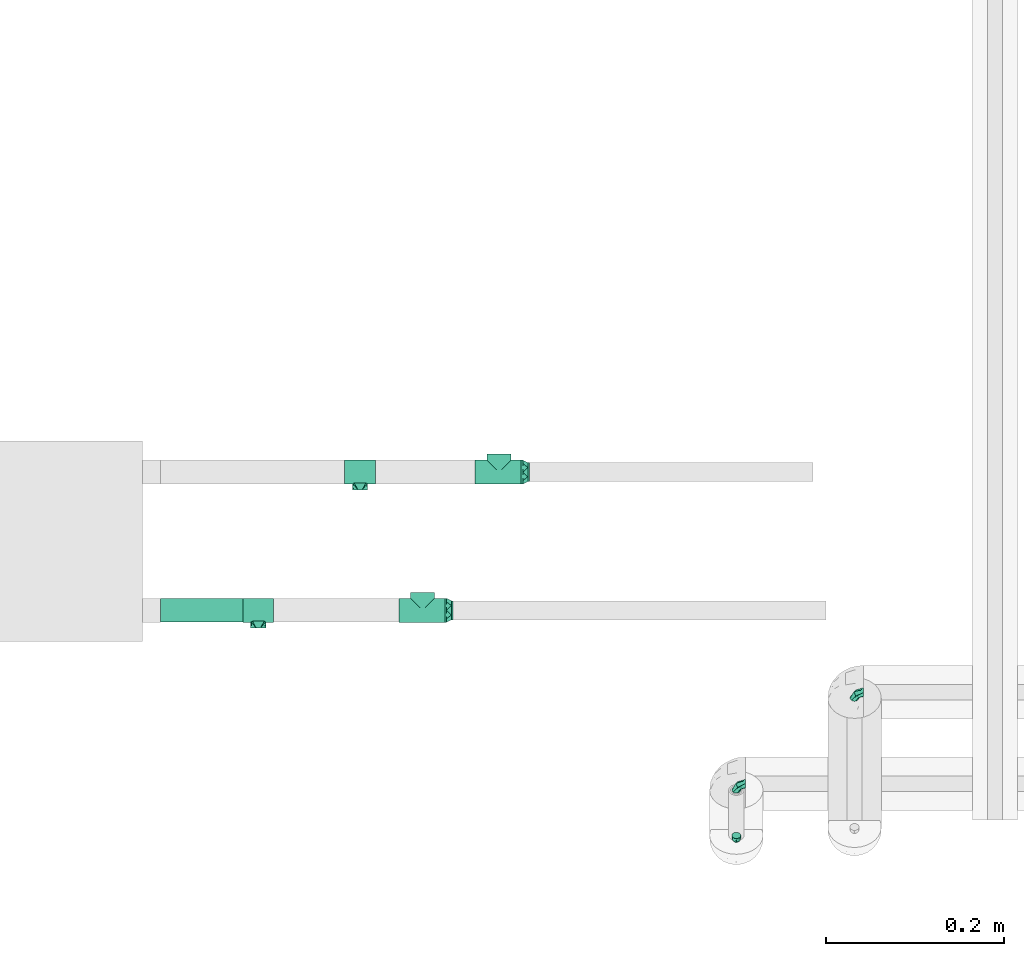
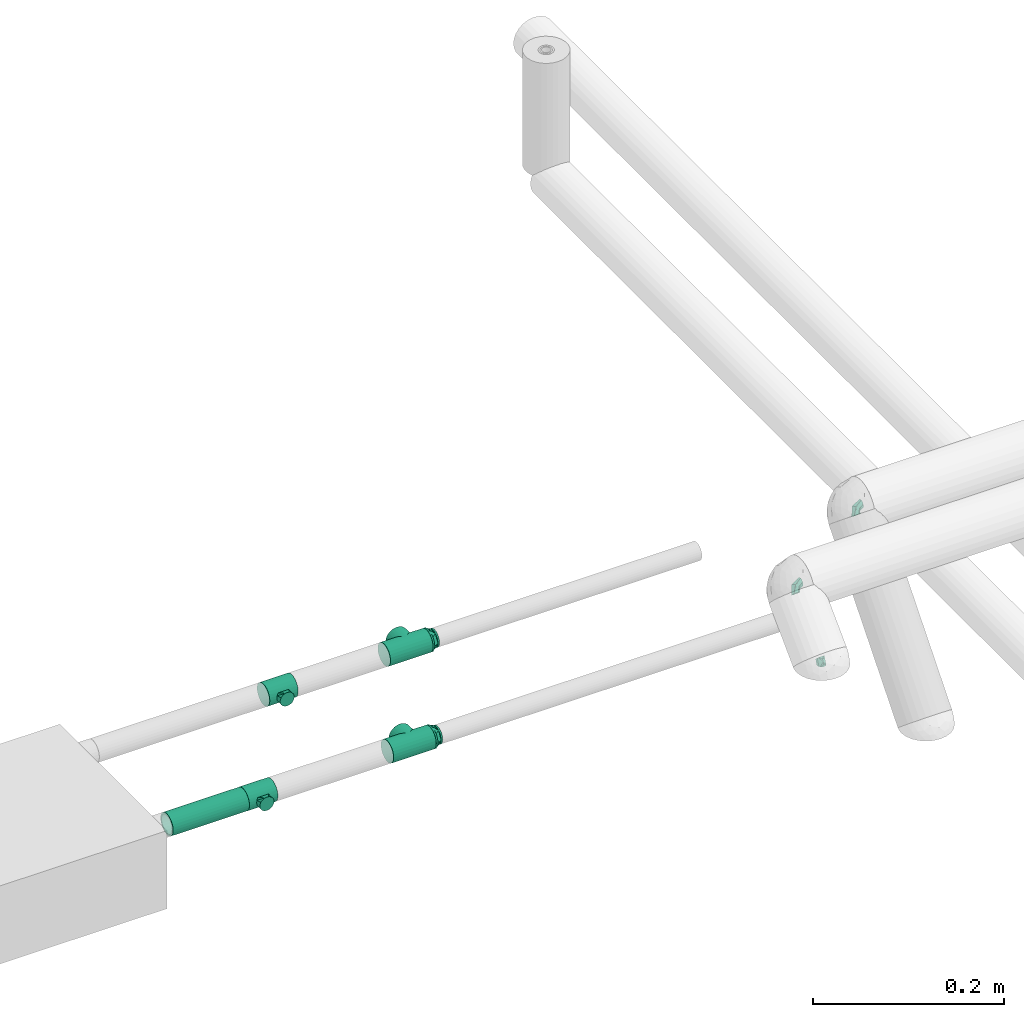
# One storey, part 79 of 156: 9 flow fittings, 1 flow segment.
"""IFC2X3 building model written with IfcOpenShell, lengths in millimetres."""

import ifcopenshell
import ifcopenshell.guid

model = None  # the IFC model being written
_history = None  # IfcOwnerHistory: only IFC2X3 demands one
_inside = {}  # id of a spatial element -> (the spatial element, [elements in it])
_under = {}  # id of a project, library or spatial element -> (it, [spatial elements below it])
_declared = {}  # id of a project -> (the project, [libraries it declares])
_typed = {}  # id of a type object -> (the type object, [elements of that type])
_made_of = {}  # id of a material, layer set ... -> (it, [elements and type objects made of it])


def new_model(schema):
    """Start an empty IFC model of exactly this schema.

    Asked for "IFC4X3", IfcOpenShell would pick the latest addendum, in which some entities
    have other attributes; the version numbers below select the first issue.
    IFC2X3 requires an IfcOwnerHistory on every rooted entity: one is made here for all.
    """
    global model, _history
    if schema == "IFC4X3":
        model = ifcopenshell.file(schema_version=(4, 3, 0, 0))
    else:
        model = ifcopenshell.file(schema=schema)
    _inside.clear()
    _under.clear()
    _declared.clear()
    _typed.clear()
    _made_of.clear()
    _history = None
    if model.schema == "IFC2X3":
        org = make("IfcOrganization", Name="unknown")
        user = make(
            "IfcPersonAndOrganization",
            ThePerson=make("IfcPerson", FamilyName="unknown"),
            TheOrganization=org,
        )
        app = make(
            "IfcApplication",
            ApplicationDeveloper=org,
            Version="unknown",
            ApplicationFullName="unknown",
            ApplicationIdentifier="unknown",
        )
        _history = make(
            "IfcOwnerHistory",
            OwningUser=user,
            OwningApplication=app,
            ChangeAction="ADDED",
            CreationDate=0,
        )
    return model


def make(cls, **values):
    """One entity of the class cls with the attributes given. An attribute that is None is left unset."""
    return model.create_entity(
        cls, **{name: value for name, value in values.items() if value is not None}
    )


def entity(cls, *values):
    """Any entity or typed value of the class cls, its attributes in the order of the schema. None: left unset."""
    e = model.create_entity(cls)
    for i, value in enumerate(values):
        if value is not None:
            e[i] = value
    return e


def rooted(cls, **values):
    """An entity with a GlobalId (a new one), such as an element, a storey or a relation."""
    return make(cls, GlobalId=ifcopenshell.guid.new(), OwnerHistory=_history, **values)


def si_unit(unit_type, name, prefix=None):
    """IfcSIUnit, for example si_unit("LENGTHUNIT", "METRE", prefix="MILLI")."""
    return make("IfcSIUnit", UnitType=unit_type, Prefix=prefix, Name=name)


def converted_unit(unit_type, name, factor, base, dimensions=None, offset=None):
    """IfcConversionBasedUnit, such as the inch: factor (a typed value) times the base unit."""
    return make(
        "IfcConversionBasedUnit"
        if offset is None
        else "IfcConversionBasedUnitWithOffset",
        ConversionOffset=offset,
        Dimensions=None
        if dimensions is None
        else entity("IfcDimensionalExponents", *dimensions),
        UnitType=unit_type,
        Name=name,
        ConversionFactor=make(
            "IfcMeasureWithUnit", ValueComponent=factor, UnitComponent=base
        ),
    )


def derived_unit(unit_type, elements):
    """IfcDerivedUnit: a product of units, each with its exponent."""
    return make(
        "IfcDerivedUnit",
        Elements=[
            make("IfcDerivedUnitElement", Unit=unit, Exponent=power)
            for unit, power in elements
        ],
        UnitType=unit_type,
    )


def assignment(units):
    """IfcUnitAssignment: the units of a project."""
    return None if units is None else make("IfcUnitAssignment", Units=units)


def point(xyz):
    """IfcCartesianPoint."""
    return None if xyz is None else make("IfcCartesianPoint", Coordinates=xyz)


def direction(xyz):
    """IfcDirection."""
    return None if xyz is None else make("IfcDirection", DirectionRatios=xyz)


def frame(location, z_axis=None, x_axis=None):
    """IfcAxis2Placement3D, a coordinate frame: its origin and axes. An axis left out is left unset."""
    return make(
        "IfcAxis2Placement3D",
        Location=point(location),
        Axis=direction(z_axis),
        RefDirection=direction(x_axis),
    )


def frame_2d(location, x_axis=None):
    """IfcAxis2Placement2D, a coordinate frame in the plane: its origin and x axis."""
    return make(
        "IfcAxis2Placement2D", Location=point(location), RefDirection=direction(x_axis)
    )


def origin_with_axes():
    """The frame at (0, 0, 0) with the z axis (0, 0, 1) and the x axis (1, 0, 0) written out."""
    return frame((0.0, 0.0, 0.0), z_axis=(0.0, 0.0, 1.0), x_axis=(1.0, 0.0, 0.0))


def origin_2d_with_axis():
    """The frame at (0, 0) in the plane with the x axis (1, 0) written out."""
    return frame_2d((0.0, 0.0), x_axis=(1.0, 0.0))


def place(relative_to, where):
    """IfcLocalPlacement: puts the frame where relative to a parent placement (None: the world)."""
    return make(
        "IfcLocalPlacement", PlacementRelTo=relative_to, RelativePlacement=where
    )


def context(
    kind, dimensions, precision=None, world=None, true_north=None, identifier=None
):
    """IfcGeometricRepresentationContext, for example the 3D "Model" context."""
    return make(
        "IfcGeometricRepresentationContext",
        ContextIdentifier=identifier,
        ContextType=kind,
        CoordinateSpaceDimension=dimensions,
        Precision=precision,
        WorldCoordinateSystem=world,
        TrueNorth=true_north,
    )


def subcontext(parent, identifier, kind, view, scale=None):
    """IfcGeometricRepresentationSubContext, for example "Body" below "Model"."""
    return make(
        "IfcGeometricRepresentationSubContext",
        ContextIdentifier=identifier,
        ContextType=kind,
        ParentContext=parent,
        TargetScale=scale,
        TargetView=view,
    )


def project(units=None, contexts=None):
    """IfcProject with its units and contexts."""
    return rooted(
        "IfcProject",
        Name="project",
        RepresentationContexts=contexts,
        UnitsInContext=assignment(units),
    )


def spatial(cls, under=None, at=None, **own):
    """A site, building, storey or space (cls), placed at a placement, below another one or the project."""
    s = rooted(cls, ObjectPlacement=at, **own)
    if under is not None:
        _under.setdefault(under.id(), (under, []))[1].append(s)
    return s


def profile(cls, at=None, kind="AREA", **sizes):
    """A parametric profile (cls). Its sizes go by their IFC names, for example OverallWidth=200.0."""
    return make(cls, ProfileType=kind, Position=at, **sizes)


def hollow_circle(**sizes):
    """IfcCircleHollowProfileDef."""
    return profile("IfcCircleHollowProfileDef", **sizes)


def extrude(swept, where, along, depth):
    """IfcExtrudedAreaSolid: the profile swept, set in the frame where, extruded along a direction by depth."""
    return make(
        "IfcExtrudedAreaSolid",
        SweptArea=swept,
        Position=where,
        ExtrudedDirection=direction(along),
        Depth=depth,
    )


def faces_of(points, faces, orient=None, outer=None):
    """IfcFace entities. A face is a list of loops; a loop is a list of indices into points, from 0.

    orient and outer hold one flag for each loop. By default every Orientation is true, the
    first loop of a face is its IfcFaceOuterBound and the others are IfcFaceBound.
    """
    made = []
    for i, loops in enumerate(faces):
        bounds = []
        for j, loop in enumerate(loops):
            is_outer = j == 0 if outer is None else outer[i][j]
            bounds.append(
                make(
                    "IfcFaceOuterBound" if is_outer else "IfcFaceBound",
                    Bound=make("IfcPolyLoop", Polygon=[points[k] for k in loop]),
                    Orientation=True if orient is None else orient[i][j],
                )
            )
        made.append(make("IfcFace", Bounds=bounds))
    return made


def open_shell(faces, orient=None, outer=None):
    """The faces of one IfcOpenShell. surface_model builds it on its shared points."""
    return ("IfcOpenShell", faces, orient, outer)


def surface_model(cls, points, shells):
    """IfcFaceBasedSurfaceModel or IfcShellBasedSurfaceModel (cls): surfaces that need not close."""
    shared = [point(p) for p in points]
    made = [make(c, CfsFaces=faces_of(shared, fs, o, b)) for c, fs, o, b in shells]
    if cls == "IfcFaceBasedSurfaceModel":
        return make(cls, FbsmFaces=made)
    return make(cls, SbsmBoundary=made)


def shape(context_of_items, identifier, shape_type, items):
    """IfcShapeRepresentation: the items that make up one representation, for example the "Body"."""
    return make(
        "IfcShapeRepresentation",
        ContextOfItems=context_of_items,
        RepresentationIdentifier=identifier,
        RepresentationType=shape_type,
        Items=items,
    )


def source(mapping_origin, context_of_items, identifier, shape_type, items):
    """IfcRepresentationMap: a shape defined once, which mapped items show again and again."""
    return make(
        "IfcRepresentationMap",
        MappingOrigin=mapping_origin,
        MappedRepresentation=shape(context_of_items, identifier, shape_type, items),
    )


def transform(
    local_origin,
    x_axis=None,
    y_axis=None,
    z_axis=None,
    scale=None,
    scale2=None,
    scale3=None,
    uniform=True,
):
    """IfcCartesianTransformationOperator3D, or its non-uniform kind. x_axis, y_axis, z_axis: its Axis1, 2, 3."""
    if uniform:
        return make(
            "IfcCartesianTransformationOperator3D",
            Axis1=direction(x_axis),
            Axis2=direction(y_axis),
            LocalOrigin=point(local_origin),
            Scale=scale,
            Axis3=direction(z_axis),
        )
    return make(
        "IfcCartesianTransformationOperator3DnonUniform",
        Axis1=direction(x_axis),
        Axis2=direction(y_axis),
        LocalOrigin=point(local_origin),
        Scale=scale,
        Axis3=direction(z_axis),
        Scale2=scale2,
        Scale3=scale3,
    )


def mapped(mapping_source, mapping_target):
    """IfcMappedItem: shows the shape of a source again, moved by a transform."""
    return make(
        "IfcMappedItem", MappingSource=mapping_source, MappingTarget=mapping_target
    )


def made_of(thing, what):
    """Note that an element or type object is made of a material, layer set ...; save() writes the relation."""
    if what is not None:
        _made_of.setdefault(what.id(), (what, []))[1].append(thing)
    return thing


def type_object(cls, material=None, **own):
    """A type object (cls), such as IfcWallType, which elements share."""
    return made_of(rooted(cls, **own), material)


def element(
    cls,
    number,
    at=None,
    inside=None,
    cuts=None,
    type_object=None,
    material=None,
    context=None,
    identifier="Body",
    shape_type=None,
    held_by="IfcProductDefinitionShape",
    body=None,
    shapes=None,
    **own,
):
    """One element of the class cls, such as IfcWall. Its Tag is "e" and its number.

    at: its placement. inside: the storey or other place that contains it. cuts: it is an
    opening in that element (IfcRelVoidsElement). A single representation is given by context,
    identifier, shape_type and body (its items); several are given by shapes. held_by: the class
    of the entity that holds the representations. save() writes the other relations.
    """
    e = rooted(cls, Tag="e%d" % number, ObjectPlacement=at, **own)
    if body is not None:
        shapes = [shape(context, identifier, shape_type, body)]
    if shapes is not None:
        e.Representation = make(held_by, Representations=shapes)
    if inside is not None:
        _inside.setdefault(inside.id(), (inside, []))[1].append(e)
    if cuts is not None:
        rooted(
            "IfcRelVoidsElement", RelatingBuildingElement=cuts, RelatedOpeningElement=e
        )
    if type_object is not None:
        _typed.setdefault(type_object.id(), (type_object, []))[1].append(e)
    return made_of(e, material)


def aggregate(whole, parts):
    """IfcRelAggregates: a whole, such as a stair, and the parts it consists of."""
    return rooted("IfcRelAggregates", RelatingObject=whole, RelatedObjects=parts)


def save(model, path):
    """Write the relations noted so far, then the file.

    IfcRelAggregates (storeys below a building ...), IfcRelContainedInSpatialStructure (elements
    in a storey), IfcRelDefinesByType, IfcRelAssociatesMaterial and IfcRelDeclares: one each for
    every whole, place, type object, material and project.
    """
    for whole, parts in _under.values():
        aggregate(whole, parts)
    for where, things in _inside.values():
        rooted(
            "IfcRelContainedInSpatialStructure",
            RelatedElements=things,
            RelatingStructure=where,
        )
    for kind, things in _typed.values():
        rooted("IfcRelDefinesByType", RelatedObjects=things, RelatingType=kind)
    for what, things in _made_of.values():
        rooted("IfcRelAssociatesMaterial", RelatedObjects=things, RelatingMaterial=what)
    for by, libraries in _declared.values():
        rooted("IfcRelDeclares", RelatingContext=by, RelatedDefinitions=libraries)
    model.write(path)


model = new_model("IFC2X3")

# Units and contexts
model_context = context("Model", 3, precision=0.01, world=frame((0.0, 4.29681676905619e-09, 0.0)), true_north=direction((4.01073788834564e-13, 1.0)))
plan_context = context("Plan", 3, precision=0.01, world=frame((0.0, 4.29681676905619e-09, 0.0)), true_north=direction((4.01073788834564e-13, 1.0)))
body_context = subcontext(model_context, "Body", "Model", "MODEL_VIEW")
ifc_project = project(units=[converted_unit("PLANEANGLEUNIT", "DEGREE", entity("IfcPositiveLengthMeasure", 0.0174532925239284), si_unit("PLANEANGLEUNIT", "RADIAN"), dimensions=[0, 0, 0, 0, 0, 0, 0]), si_unit("AREAUNIT", "SQUARE_METRE"), si_unit("LENGTHUNIT", "METRE", prefix="MILLI"), si_unit("MASSUNIT", "GRAM", prefix="KILO"), si_unit("POWERUNIT", "WATT"), si_unit("PRESSUREUNIT", "PASCAL", prefix="KILO"), si_unit("FORCEUNIT", "NEWTON", prefix="KILO"), si_unit("ELECTRICVOLTAGEUNIT", "VOLT"), si_unit("ELECTRICCURRENTUNIT", "AMPERE"), si_unit("THERMODYNAMICTEMPERATUREUNIT", "DEGREE_CELSIUS"), si_unit("TIMEUNIT", "SECOND"), si_unit("VOLUMEUNIT", "CUBIC_METRE"), derived_unit("LINEARVELOCITYUNIT", [(si_unit("LENGTHUNIT", "METRE"), 1), (si_unit("TIMEUNIT", "SECOND"), -1)]), derived_unit("VOLUMETRICFLOWRATEUNIT", [(si_unit("VOLUMEUNIT", "CUBIC_METRE"), 1), (si_unit("TIMEUNIT", "SECOND"), -1)]), derived_unit("THERMALTRANSMITTANCEUNIT", [(si_unit("POWERUNIT", "WATT"), 1), (si_unit("THERMODYNAMICTEMPERATUREUNIT", "KELVIN"), -1), (si_unit("AREAUNIT", "SQUARE_METRE"), -1)]), derived_unit("SOUNDPRESSUREUNIT", [(si_unit("PRESSUREUNIT", "PASCAL"), 1)])], contexts=[model_context, plan_context])

# Site, building, storey
site_placement = place(None, frame((0.0, -4.29681676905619e-09, 0.0), z_axis=(0.0, 0.0, 1.0), x_axis=(1.0, 0.0, 0.0)))
site = spatial("IfcSite", under=ifc_project, at=site_placement, CompositionType="ELEMENT")
building_placement = place(site_placement, frame((0.0, 4.29681676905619e-09, 0.0), z_axis=(0.0, 0.0, 1.0), x_axis=(1.0, 0.0, 0.0)))
building = spatial("IfcBuilding", under=site, at=building_placement, Name="mc-building", CompositionType="ELEMENT")
storey_placement = place(building_placement, frame((0.0, 0.0, 205200.0), z_axis=(0.0, 0.0, 1.0), x_axis=(1.0, 0.0, 0.0)))
storey = spatial("IfcBuildingStorey", under=building, at=storey_placement, Name="Nivå D + 1,2 m", CompositionType="ELEMENT", Elevation=205200.0)

# Flow fittings
pipe_fitting_type_1 = type_object("IfcPipeFittingType", Name="magi_pipe_fe_tee_centric_90_001", PredefinedType="JUNCTION")
shared_shape_1 = source(origin_with_axes(), body_context, "Body", "SurfaceModel", [
    surface_model("IfcShellBasedSurfaceModel", [(-26.8, -13.4, 0.0), (-26.8, -12.94341, 3.46818), (-26.8, -12.94341, -3.46818), (-26.8, 6.7, -11.60474), (-26.8, 3.46818, -12.94341), (-26.8, 0.0, -13.4), (-26.8, 9.47523, -9.47523), (-26.8, 12.94341, -3.46818), (-26.8, 11.60474, -6.7), (-26.8, -11.60474, -6.7), (-26.8, -6.7, -11.60474), (-26.8, -9.47523, -9.47523), (-26.8, -3.46818, -12.94341), (-26.8, 11.60474, 6.7), (-26.8, 12.94341, 3.46818), (-26.8, 6.7, 11.60474), (-26.8, 9.47523, 9.47523), (-26.8, 3.46818, 12.94341), (-26.8, -9.47523, 9.47523), (-26.8, -6.7, 11.60474), (-26.8, -11.60474, 6.7), (-26.8, -3.46818, 12.94341), (-26.8, 0.0, 13.4), (-26.8, 13.4, 0.0), (26.8, 9.47523, -9.47523), (26.8, 0.0, -13.4), (26.8, 3.46818, -12.94341), (26.8, 6.7, -11.60474), (26.8, -12.94341, 3.46818), (26.8, 11.60474, -6.7), (26.8, -11.60474, -6.7), (26.8, -12.94341, -3.46818), (26.8, -3.46818, -12.94341), (26.8, -9.47523, -9.47523), (26.8, -6.7, -11.60474), (26.8, -13.4, 0.0), (26.8, 12.94341, -3.46818), (26.8, 13.4, 0.0), (26.8, 12.94341, 3.46818), (26.8, 11.60474, 6.7), (26.8, 6.7, 11.60474), (26.8, 9.47523, 9.47523), (26.8, 0.0, 13.4), (26.8, 3.46818, 12.94341), (26.8, -11.60474, 6.7), (26.8, -6.7, 11.60474), (26.8, -9.47523, 9.47523), (26.8, -3.46818, 12.94341), (12.91394, -12.91394, 3.57635), (13.4, -13.4, 0.0), (11.59778, -11.59778, 6.71205), (7.51045, -7.51045, 11.09744), (9.72367, -9.72367, 9.2201), (-13.4, -13.4, 0.0), (-12.91394, -12.91394, 3.57635), (-11.59778, -11.59778, 6.71205), (-9.72367, -9.72367, 9.2201), (-7.51045, -7.51045, 11.09744), (-5.09751, -5.09751, 12.39256), (5.09751, -5.09751, 12.39256), (2.57313, -2.57313, 13.15063), (0.0, 0.0, 13.4), (-2.57313, -2.57313, 13.15063), (2.57313, -2.57313, -13.15063), (0.0, 0.0, -13.4), (-2.57313, -2.57313, -13.15063), (-5.09751, -5.09751, -12.39256), (5.09751, -5.09751, -12.39256), (7.51045, -7.51045, -11.09744), (9.72367, -9.72367, -9.2201), (11.59778, -11.59778, -6.71205), (12.91394, -12.91394, -3.57635), (-7.51045, -7.51045, -11.09744), (-9.72367, -9.72367, -9.2201), (-12.91394, -12.91394, -3.57635), (-11.59778, -11.59778, -6.71205), (9.47523, -20.1, -9.47523), (0.0, -20.1, -13.4), (3.46818, -20.1, -12.94341), (6.7, -20.1, -11.60474), (11.60474, -20.1, -6.7), (12.94341, -20.1, -3.46818), (-12.94341, -20.1, 3.46818), (-12.94341, -20.1, -3.46818), (-3.46818, -20.1, -12.94341), (-9.47523, -20.1, -9.47523), (-6.7, -20.1, -11.60474), (-11.60474, -20.1, -6.7), (-13.4, -20.1, 0.0), (13.4, -20.1, 0.0), (12.94341, -20.1, 3.46818), (11.60474, -20.1, 6.7), (6.7, -20.1, 11.60474), (9.47523, -20.1, 9.47523), (3.46818, -20.1, 12.94341), (-9.47523, -20.1, 9.47523), (-11.60474, -20.1, 6.7), (-6.7, -20.1, 11.60474), (-3.46818, -20.1, 12.94341), (0.0, -20.1, 13.4)], [open_shell([[[0, 1, 2]], [[3, 4, 5]], [[6, 3, 5]], [[7, 8, 6]], [[9, 6, 5]], [[6, 2, 1]], [[10, 11, 12]], [[9, 12, 11]], [[12, 9, 5]], [[9, 2, 6]], [[7, 6, 1]], [[7, 13, 14]], [[7, 15, 13]], [[7, 1, 15]], [[16, 13, 15]], [[17, 15, 1]], [[18, 19, 20]], [[1, 20, 21]], [[19, 21, 20]], [[22, 1, 21]], [[22, 17, 1]], [[7, 14, 23]], [[24, 25, 26]], [[24, 26, 27]], [[28, 24, 29]], [[25, 24, 30]], [[28, 31, 24]], [[32, 33, 34]], [[33, 32, 30]], [[25, 30, 32]], [[24, 31, 30]], [[31, 28, 35]], [[36, 28, 29]], [[37, 38, 39]], [[37, 39, 40]], [[37, 40, 28]], [[40, 39, 41]], [[42, 40, 43]], [[44, 45, 46]], [[47, 44, 28]], [[44, 47, 45]], [[47, 28, 42]], [[28, 40, 42]], [[37, 28, 36]], [[28, 44, 48]], [[35, 28, 49]], [[49, 28, 48]], [[44, 50, 48]], [[46, 45, 51]], [[50, 44, 52]], [[51, 52, 46]], [[52, 44, 46]], [[53, 54, 1]], [[53, 1, 0]], [[1, 54, 20]], [[54, 55, 20]], [[56, 57, 18]], [[18, 20, 56]], [[18, 57, 19]], [[56, 20, 55]], [[19, 57, 58]], [[51, 45, 59]], [[60, 42, 61]], [[59, 47, 60]], [[47, 59, 45]], [[60, 47, 42]], [[61, 42, 43]], [[39, 38, 14]], [[16, 40, 41]], [[13, 41, 39]], [[43, 40, 15]], [[23, 38, 37]], [[62, 61, 22]], [[62, 21, 58]], [[21, 62, 22]], [[58, 21, 19]], [[61, 17, 22]], [[43, 17, 61]], [[15, 17, 43]], [[15, 40, 16]], [[13, 16, 41]], [[14, 13, 39]], [[38, 23, 14]], [[8, 29, 24]], [[23, 37, 36]], [[24, 27, 3]], [[29, 7, 36]], [[25, 32, 63]], [[25, 64, 26]], [[64, 25, 63]], [[27, 26, 4]], [[64, 4, 26]], [[8, 24, 6]], [[7, 29, 8]], [[24, 3, 6]], [[7, 23, 36]], [[65, 66, 12]], [[5, 4, 64]], [[5, 65, 12]], [[66, 10, 12]], [[4, 3, 27]], [[5, 64, 65]], [[63, 32, 67]], [[34, 33, 68]], [[69, 68, 33]], [[30, 70, 69]], [[69, 33, 30]], [[34, 68, 67]], [[31, 35, 49]], [[31, 71, 30]], [[71, 31, 49]], [[30, 71, 70]], [[72, 10, 66]], [[72, 11, 10]], [[11, 72, 73]], [[11, 73, 9]], [[74, 53, 2]], [[75, 74, 9]], [[74, 2, 9]], [[2, 53, 0]], [[75, 9, 73]], [[34, 67, 32]], [[76, 77, 78]], [[76, 78, 79]], [[76, 80, 81]], [[77, 76, 82]], [[82, 83, 77]], [[84, 85, 86]], [[84, 77, 85]], [[87, 85, 77]], [[77, 83, 87]], [[83, 82, 88]], [[82, 76, 81]], [[89, 90, 91]], [[91, 92, 81]], [[92, 82, 81]], [[92, 91, 93]], [[82, 92, 94]], [[82, 95, 96]], [[95, 82, 97]], [[82, 98, 97]], [[98, 82, 99]], [[82, 94, 99]], [[81, 89, 91]], [[82, 53, 88]], [[96, 54, 82]], [[57, 95, 97]], [[97, 98, 58]], [[96, 95, 56]], [[99, 62, 98]], [[54, 53, 82]], [[55, 54, 96]], [[57, 56, 95]], [[62, 58, 98]], [[57, 97, 58]], [[55, 96, 56]], [[99, 61, 62]], [[51, 92, 93]], [[59, 94, 92]], [[90, 89, 49]], [[93, 91, 52]], [[90, 48, 91]], [[48, 90, 49]], [[61, 99, 60]], [[59, 60, 94]], [[48, 50, 91]], [[52, 51, 93]], [[50, 52, 91]], [[59, 92, 51]], [[60, 99, 94]], [[81, 49, 89]], [[80, 71, 81]], [[68, 76, 79]], [[79, 78, 67]], [[80, 76, 69]], [[77, 63, 78]], [[71, 49, 81]], [[70, 71, 80]], [[68, 69, 76]], [[63, 67, 78]], [[68, 79, 67]], [[70, 80, 69]], [[77, 64, 63]], [[86, 66, 84]], [[85, 72, 86]], [[83, 88, 53]], [[85, 87, 73]], [[83, 74, 87]], [[74, 83, 53]], [[64, 77, 65]], [[66, 65, 84]], [[74, 75, 87]], [[73, 72, 85]], [[75, 73, 87]], [[66, 86, 72]], [[65, 77, 84]]])]),
])
for number, where, z_axis, x_axis, name in (
    (1, (322893.25854, 459123.07852, 4038.0), (0.0, 0.0, 1.0), (-1.0, 0.0, 0.0), "magi_pipe_fe_tee_centric_90_001"),
    (2, (322978.90559, 459278.07852, 4038.0), (0.0, 0.0, 1.0), (-1.0, 0.0, 0.0), "magi_pipe_fe_tee_centric_90_001"),
):
    element("IfcFlowFitting", number, at=place(storey_placement, frame(where, z_axis=z_axis, x_axis=x_axis)), inside=storey, type_object=pipe_fitting_type_1, Name=name, context=body_context, shape_type="MappedRepresentation", body=[
        mapped(shared_shape_1, transform((0.0, 0.0, 0.0), scale=1.0)),
    ])
shared_shape_2 = source(origin_with_axes(), body_context, "Body", "SurfaceModel", [
    surface_model("IfcShellBasedSurfaceModel", [(-17.2, 0.0, -13.4), (-17.2, -9.47523, -9.47523), (-17.2, 3.46818, -12.94341), (-17.2, 6.7, -11.60474), (-17.2, 9.47523, -9.47523), (-17.2, 12.94341, -3.46818), (-17.2, 11.60474, -6.7), (-17.2, -6.7, -11.60474), (-17.2, -3.46818, -12.94341), (-17.2, -11.60474, -6.7), (-17.2, -12.94341, -3.46818), (-17.2, -12.94341, 3.46818), (-17.2, -13.4, 0.0), (-17.2, 11.60474, 6.7), (-17.2, 12.94341, 3.46818), (-17.2, 6.7, 11.60474), (-17.2, 9.47523, 9.47523), (-17.2, 3.46818, 12.94341), (-17.2, -9.47523, 9.47523), (-17.2, -6.7, 11.60474), (-17.2, -11.60474, 6.7), (-17.2, -3.46818, 12.94341), (-17.2, 0.0, 13.4), (-17.2, 13.4, 0.0), (17.2, 12.94341, -3.46818), (17.2, 0.0, -13.4), (17.2, 3.46818, -12.94341), (17.2, 6.7, -11.60474), (17.2, 9.47523, -9.47523), (17.2, 11.60474, -6.7), (17.2, -9.47523, -9.47523), (17.2, -3.46818, -12.94341), (17.2, -6.7, -11.60474), (17.2, -12.94341, -3.46818), (17.2, -11.60474, -6.7), (17.2, 11.60474, 6.7), (17.2, -12.94341, 3.46818), (17.2, -13.4, 0.0), (17.2, 13.4, 0.0), (17.2, 12.94341, 3.46818), (17.2, 6.7, 11.60474), (17.2, 9.47523, 9.47523), (17.2, 3.46818, 12.94341), (17.2, -9.47523, 9.47523), (17.2, -11.60474, 6.7), (17.2, 0.0, 13.4), (17.2, -6.7, 11.60474), (17.2, -3.46818, 12.94341), (8.05617, -13.05764, 3.00966), (8.6, -13.4, 0.0), (17.2, -12.27407, 5.08409), (4.33646, -11.15369, 7.42665), (6.55959, -12.19132, 5.56163), (1.53451, -10.39013, 8.46199), (-6.5615, -12.19234, 5.55938), (-17.2, -12.27407, 5.08409), (-8.6, -13.4, 0.0), (-8.05647, -13.05782, 3.00887), (-4.33723, -11.15399, 7.4262), (-1.53709, -10.39051, 8.46152), (6.55959, -12.19132, -5.56163), (17.2, -12.27407, -5.08409), (-8.05647, -13.05782, -3.00887), (-17.2, -12.27407, -5.08409), (-6.5615, -12.19234, -5.55938), (4.33646, -11.15369, -7.42665), (1.53451, -10.39013, -8.46199), (8.05617, -13.05764, -3.00966), (-1.53709, -10.39051, -8.46152), (-4.33723, -11.15399, -7.4262), (0.0, -20.1, -8.6), (2.22584, -20.1, -8.30696), (4.3, -20.1, -7.44782), (6.08112, -20.1, -6.08112), (7.44782, -20.1, -4.3), (8.30696, -20.1, -2.22584), (-6.08112, -20.1, -6.08112), (-8.30696, -20.1, 2.22584), (-2.22584, -20.1, -8.30696), (-4.3, -20.1, -7.44782), (-8.30696, -20.1, -2.22584), (-7.44782, -20.1, -4.3), (-8.6, -20.1, 0.0), (8.30696, -20.1, 2.22584), (2.22584, -20.1, 8.30696), (7.44782, -20.1, 4.3), (4.3, -20.1, 7.44782), (6.08112, -20.1, 6.08112), (0.0, -20.1, 8.6), (-6.08112, -20.1, 6.08112), (-7.44782, -20.1, 4.3), (-4.3, -20.1, 7.44782), (-2.22584, -20.1, 8.30696), (8.6, -20.1, 0.0)], [open_shell([[[0, 1, 2]], [[3, 2, 4]], [[5, 6, 4]], [[2, 5, 4]], [[5, 2, 1]], [[7, 1, 8]], [[1, 0, 8]], [[9, 10, 1]], [[10, 11, 1]], [[12, 11, 10]], [[5, 1, 11]], [[5, 13, 14]], [[11, 13, 5]], [[15, 13, 11]], [[16, 13, 15]], [[17, 15, 11]], [[18, 19, 20]], [[11, 20, 19]], [[21, 22, 19]], [[11, 19, 22]], [[22, 17, 11]], [[14, 23, 5]], [[24, 25, 26]], [[24, 26, 27]], [[28, 29, 24]], [[28, 24, 27]], [[25, 24, 30]], [[31, 30, 32]], [[31, 25, 30]], [[30, 33, 34]], [[30, 35, 33]], [[33, 36, 37]], [[35, 30, 24]], [[38, 39, 35]], [[33, 35, 36]], [[35, 40, 36]], [[40, 35, 41]], [[42, 36, 40]], [[36, 43, 44]], [[43, 36, 45]], [[46, 45, 47]], [[45, 46, 43]], [[36, 42, 45]], [[35, 24, 38]], [[37, 36, 48]], [[48, 49, 37]], [[50, 48, 36]], [[44, 43, 51]], [[51, 52, 44]], [[53, 51, 43]], [[43, 18, 53]], [[44, 52, 50]], [[54, 20, 55]], [[56, 57, 12]], [[11, 12, 57]], [[54, 55, 57]], [[58, 59, 18]], [[58, 20, 54]], [[20, 58, 18]], [[55, 11, 57]], [[59, 53, 18]], [[48, 50, 52]], [[43, 19, 18]], [[22, 47, 45]], [[21, 46, 47]], [[17, 45, 42]], [[35, 39, 14]], [[16, 40, 41]], [[13, 41, 35]], [[42, 40, 15]], [[23, 39, 38]], [[19, 46, 21]], [[21, 47, 22]], [[17, 22, 45]], [[42, 15, 17]], [[15, 40, 16]], [[13, 16, 41]], [[14, 13, 35]], [[39, 23, 14]], [[46, 19, 43]], [[23, 38, 24]], [[24, 29, 5]], [[29, 28, 6]], [[8, 25, 31]], [[0, 26, 25]], [[60, 34, 61]], [[27, 26, 2]], [[7, 31, 32]], [[3, 28, 27]], [[4, 6, 28]], [[6, 5, 29]], [[5, 23, 24]], [[62, 63, 64]], [[3, 27, 2]], [[0, 2, 26]], [[25, 8, 0]], [[31, 7, 8]], [[4, 28, 3]], [[32, 1, 7]], [[30, 34, 65]], [[65, 66, 30]], [[34, 60, 65]], [[30, 66, 1]], [[33, 37, 67]], [[60, 61, 67]], [[49, 67, 37]], [[67, 61, 33]], [[68, 69, 1]], [[9, 1, 69]], [[69, 64, 9]], [[68, 1, 66]], [[62, 10, 63]], [[62, 12, 10]], [[12, 62, 56]], [[64, 63, 9]], [[30, 1, 32]], [[70, 71, 72]], [[70, 72, 73]], [[73, 74, 75]], [[73, 75, 70]], [[76, 70, 77]], [[78, 76, 79]], [[78, 70, 76]], [[76, 80, 81]], [[80, 76, 82]], [[76, 77, 82]], [[77, 70, 75]], [[75, 83, 84]], [[84, 83, 85]], [[86, 84, 85]], [[86, 85, 87]], [[75, 84, 88]], [[77, 89, 90]], [[75, 89, 77]], [[91, 88, 92]], [[89, 75, 91]], [[91, 75, 88]], [[83, 75, 93]], [[56, 82, 77]], [[57, 90, 89]], [[77, 90, 56]], [[89, 91, 57]], [[56, 90, 57]], [[54, 57, 92]], [[59, 58, 51]], [[54, 52, 58]], [[92, 88, 54]], [[91, 92, 57]], [[84, 52, 88]], [[86, 48, 84]], [[48, 87, 85]], [[86, 87, 48]], [[49, 85, 83]], [[51, 53, 59]], [[52, 51, 58]], [[85, 49, 48]], [[48, 52, 84]], [[49, 83, 93]], [[54, 88, 52]], [[49, 93, 75]], [[67, 74, 73]], [[75, 74, 49]], [[73, 72, 67]], [[49, 74, 67]], [[60, 67, 71]], [[66, 65, 68]], [[60, 69, 65]], [[71, 70, 60]], [[72, 71, 67]], [[64, 70, 78]], [[79, 62, 78]], [[62, 76, 81]], [[79, 76, 62]], [[56, 81, 80]], [[69, 68, 65]], [[64, 69, 60]], [[81, 56, 62]], [[62, 64, 78]], [[56, 80, 82]], [[60, 70, 64]]])]),
])
for number, where, z_axis, x_axis, name in (
    (3, (322708.94866, 459123.07852, 4038.0), (0.0, 0.0, -1.0), (-1.0, 0.0, 0.0), "magi_pipe_fe_tee_centric_90_001"),
    (4, (322823.0376, 459278.07852, 4038.0), (0.0, 0.0, -1.0), (-1.0, 0.0, 0.0), "magi_pipe_fe_tee_centric_90_001"),
):
    element("IfcFlowFitting", number, at=place(storey_placement, frame(where, z_axis=z_axis, x_axis=x_axis)), inside=storey, type_object=pipe_fitting_type_1, Name=name, context=body_context, shape_type="MappedRepresentation", body=[
        mapped(shared_shape_2, transform((0.0, 0.0, 0.0), scale=1.0)),
    ])
pipe_fitting_type_2 = type_object("IfcPipeFittingType", Name="magi_pipe_fe_reducer_centric_short_001", PredefinedType="TRANSITION")
shared_shape_3 = source(origin_with_axes(), body_context, "Body", "SurfaceModel", [
    surface_model("IfcShellBasedSurfaceModel", [(7.4, 12.94341, -3.46818), (7.4, 3.46818, -12.94341), (7.4, 6.7, -11.60474), (7.4, 9.47523, -9.47523), (7.4, -6.7, -11.60474), (7.4, -12.94341, 3.46818), (7.4, 11.60474, -6.7), (7.4, 0.0, -13.4), (7.4, -3.46818, -12.94341), (7.4, -9.47523, -9.47523), (7.4, -12.94341, -3.46818), (7.4, -11.60474, -6.7), (7.4, 13.4, 0.0), (7.4, 12.94341, 3.46818), (7.4, 11.60474, 6.7), (7.4, 9.47523, 9.47523), (7.4, 0.0, 13.4), (7.4, 6.7, 11.60474), (7.4, 3.46818, 12.94341), (7.4, -6.7, 11.60474), (7.4, -9.47523, 9.47523), (7.4, -11.60474, 6.7), (7.4, -13.4, 0.0), (7.4, -3.46818, 12.94341), (5.4, 0.0, 13.4), (5.4, 3.46818, 12.94341), (5.4, 6.7, 11.60474), (5.4, -3.46818, 12.94341), (5.4, 9.47523, 9.47523), (5.4, 11.60474, 6.7), (5.4, 12.94341, 3.46818), (5.4, -12.94341, 3.46818), (5.4, -9.47523, 9.47523), (5.4, -6.7, 11.60474), (5.4, -11.60474, 6.7), (5.4, -12.94341, -3.46818), (5.4, -13.4, 0.0), (5.4, -6.7, -11.60474), (5.4, 12.94341, -3.46818), (5.4, 9.47523, -9.47523), (5.4, 11.60474, -6.7), (5.4, 6.7, -11.60474), (5.4, 3.46818, -12.94341), (5.4, -9.47523, -9.47523), (5.4, -11.60474, -6.7), (5.4, 0.0, -13.4), (5.4, -3.46818, -12.94341), (5.4, 13.4, 0.0), (-2.0, 7.56604, 7.56604), (-2.0, 9.26647, 5.35), (-2.0, 10.33541, 2.76936), (-2.0, -2.76936, 10.33541), (-2.0, -7.56604, 7.56604), (-2.0, -5.35, 9.26647), (-2.0, -10.33541, 2.76936), (-2.0, -10.33541, -2.76936), (-2.0, -10.7, 0.0), (-2.0, 7.56604, -7.56604), (-2.0, 10.33541, -2.76936), (-2.0, 9.26647, -5.35), (-2.0, -7.56604, -7.56604), (-2.0, -9.26647, -5.35), (-2.0, -5.35, -9.26647), (-2.0, 0.0, -10.7), (-2.0, -2.76936, -10.33541), (-2.0, 2.76936, -10.33541), (-2.0, 10.7, 0.0), (0.0, 5.35, -9.26647), (0.0, 0.0, -10.7), (0.0, 2.76936, -10.33541), (0.0, 10.33541, -2.76936), (0.0, 7.56604, -7.56604), (0.0, 9.26647, -5.35), (0.0, -5.35, -9.26647), (0.0, -2.76936, -10.33541), (0.0, -7.56604, -7.56604), (0.0, -10.33541, -2.76936), (0.0, -9.26647, -5.35), (0.0, 10.33541, 2.76936), (0.0, 9.26647, 5.35), (0.0, 7.56604, 7.56604), (0.0, 2.76936, 10.33541), (0.0, 5.35, 9.26647), (0.0, -7.56604, 7.56604), (0.0, -2.76936, 10.33541), (0.0, -5.35, 9.26647), (0.0, -10.7, 0.0), (-2.0, 5.35, -9.26647), (0.0, 10.7, 0.0), (-2.0, 5.35, 9.26647), (-2.0, 2.76936, 10.33541), (0.0, 0.0, 10.7), (-2.0, 0.0, 10.7), (0.0, -9.26647, 5.35), (-2.0, -9.26647, 5.35), (0.0, -10.33541, 2.76936)], [open_shell([[[0, 1, 2]], [[0, 2, 3]], [[4, 1, 5]], [[0, 3, 6]], [[1, 0, 5]], [[7, 4, 8]], [[7, 1, 4]], [[9, 10, 11]], [[5, 10, 9]], [[9, 4, 5]], [[0, 12, 5]], [[13, 14, 15]], [[13, 15, 16]], [[17, 18, 16]], [[17, 16, 15]], [[13, 16, 19]], [[5, 20, 21]], [[22, 10, 5]], [[5, 19, 20]], [[5, 13, 19]], [[23, 19, 16]], [[5, 12, 13]], [[24, 25, 26]], [[27, 24, 26]], [[28, 29, 30]], [[26, 28, 27]], [[30, 31, 28]], [[27, 32, 33]], [[32, 27, 31]], [[32, 31, 34]], [[27, 28, 31]], [[31, 35, 36]], [[31, 30, 37]], [[38, 39, 30]], [[39, 38, 40]], [[41, 37, 30]], [[30, 39, 41]], [[37, 41, 42]], [[35, 43, 44]], [[35, 31, 43]], [[37, 45, 46]], [[31, 37, 43]], [[42, 45, 37]], [[47, 38, 30]], [[35, 10, 36]], [[44, 11, 35]], [[4, 43, 37]], [[44, 43, 9]], [[8, 37, 46]], [[35, 11, 10]], [[10, 22, 36]], [[8, 4, 37]], [[9, 43, 4]], [[9, 11, 44]], [[7, 8, 46]], [[46, 45, 7]], [[42, 1, 45]], [[41, 2, 42]], [[6, 39, 40]], [[41, 39, 3]], [[0, 40, 38]], [[41, 3, 2]], [[2, 1, 42]], [[12, 0, 38]], [[6, 40, 0]], [[6, 3, 39]], [[47, 12, 38]], [[45, 1, 7]], [[30, 13, 47]], [[29, 14, 30]], [[17, 28, 26]], [[29, 28, 15]], [[18, 26, 25]], [[30, 14, 13]], [[13, 12, 47]], [[18, 17, 26]], [[15, 28, 17]], [[15, 14, 29]], [[16, 18, 25]], [[25, 24, 16]], [[27, 23, 24]], [[33, 19, 27]], [[21, 32, 34]], [[33, 32, 20]], [[5, 34, 31]], [[33, 20, 19]], [[19, 23, 27]], [[22, 5, 31]], [[21, 34, 5]], [[21, 20, 32]], [[36, 22, 31]], [[24, 23, 16]], [[48, 49, 50]], [[51, 52, 53]], [[54, 55, 56]], [[57, 58, 59]], [[55, 60, 61]], [[60, 55, 62]], [[62, 63, 64]], [[65, 63, 62]], [[58, 50, 66]], [[67, 68, 69]], [[70, 67, 71]], [[70, 71, 72]], [[68, 73, 74]], [[68, 67, 73]], [[75, 76, 77]], [[76, 75, 73]], [[78, 79, 80]], [[81, 80, 82]], [[83, 84, 85]], [[55, 76, 56]], [[61, 77, 55]], [[73, 60, 62]], [[61, 60, 75]], [[74, 62, 64]], [[55, 77, 76]], [[76, 86, 56]], [[74, 73, 62]], [[75, 60, 73]], [[75, 77, 61]], [[68, 74, 64]], [[64, 63, 68]], [[65, 69, 63]], [[87, 67, 65]], [[72, 57, 59]], [[87, 57, 71]], [[70, 59, 58]], [[87, 71, 67]], [[67, 69, 65]], [[88, 70, 58]], [[72, 59, 70]], [[72, 71, 57]], [[66, 88, 58]], [[63, 69, 68]], [[50, 78, 66]], [[49, 79, 50]], [[82, 48, 89]], [[49, 48, 80]], [[81, 89, 90]], [[50, 79, 78]], [[78, 88, 66]], [[81, 82, 89]], [[80, 48, 82]], [[80, 79, 49]], [[91, 81, 90]], [[90, 92, 91]], [[51, 84, 92]], [[53, 85, 51]], [[93, 52, 94]], [[53, 52, 83]], [[95, 94, 54]], [[53, 83, 85]], [[85, 84, 51]], [[86, 95, 54]], [[93, 94, 95]], [[93, 83, 52]], [[56, 86, 54]], [[92, 84, 91]], [[39, 47, 28]], [[36, 43, 39]], [[45, 39, 43]], [[36, 39, 24]], [[86, 85, 73]], [[88, 85, 82]], [[88, 67, 73]], [[88, 73, 85]], [[86, 73, 43]], [[43, 36, 86]], [[73, 45, 43]], [[67, 88, 39]], [[39, 45, 67]], [[47, 39, 88]], [[67, 45, 73]], [[88, 82, 28]], [[28, 47, 88]], [[82, 24, 28]], [[85, 86, 32]], [[32, 24, 85]], [[36, 32, 86]], [[85, 24, 82]], [[50, 92, 90]], [[48, 90, 89]], [[48, 50, 90]], [[92, 50, 94]], [[52, 51, 94]], [[94, 51, 92]], [[54, 94, 55]], [[94, 50, 58]], [[55, 94, 58]], [[55, 57, 87]], [[58, 57, 55]], [[62, 87, 65]], [[62, 55, 87]], [[73, 67, 70]], [[93, 73, 70]], [[73, 93, 76]], [[78, 70, 88]], [[70, 80, 93]], [[81, 91, 80]], [[93, 80, 91]], [[76, 95, 86]], [[93, 95, 76]], [[84, 83, 93]], [[91, 84, 93]], [[70, 78, 80]], [[24, 32, 36]], [[39, 28, 24]]])]),
])
for number, where, z_axis, x_axis, name in (
    (5, (323011.10559, 459278.07852, 4038.0), (0.0, 0.0, 1.0), (-1.0, 0.0, 0.0), "magi_pipe_fe_reducer_centric_short_001"),
    (6, (322925.45854, 459123.07852, 4038.0), (0.0, 0.0, 1.0), (-1.0, 0.0, 0.0), "magi_pipe_fe_reducer_centric_short_001"),
):
    element("IfcFlowFitting", number, at=place(storey_placement, frame(where, z_axis=z_axis, x_axis=x_axis)), inside=storey, type_object=pipe_fitting_type_2, Name=name, context=body_context, shape_type="MappedRepresentation", body=[
        mapped(shared_shape_3, transform((0.0, 0.0, 0.0), scale=1.0)),
    ])
pipe_fitting_type_3 = type_object("IfcPipeFittingType", Name="magi_pipe_elbow_short_001", PredefinedType="BEND")
shared_shape_4 = source(origin_with_axes(), body_context, "Body", "SurfaceModel", [
    surface_model("IfcShellBasedSurfaceModel", [(-4.14214, 0.0, -5.0), (-4.14214, -3.53553, -3.53553), (-4.14214, 1.2941, -4.82963), (-4.14214, 2.5, -4.33013), (-4.14214, 3.53553, -3.53553), (-4.14214, 4.82963, -1.2941), (-4.14214, 4.33013, -2.5), (-4.14214, -5.0, 0.0), (-4.14214, 4.33013, 2.5), (-4.14214, -2.5, -4.33013), (-4.14214, -1.2941, -4.82963), (-4.14214, -4.82963, -1.2941), (-4.14214, -4.33013, -2.5), (-4.14214, 5.0, 0.0), (-4.14214, 4.82963, 1.2941), (-4.14214, 1.2941, 4.82963), (-4.14214, 2.5, 4.33013), (-4.14214, 3.53553, 3.53553), (-4.14214, -3.53553, 3.53553), (-4.14214, -4.82963, 1.2941), (-4.14214, -4.33013, 2.5), (-4.14214, -2.5, 4.33013), (-4.14214, -1.2941, 4.82963), (-4.14214, 0.0, 5.0), (2.01387, 3.844, -4.82963), (5.42893, 0.42893, -3.53553), (2.92893, 2.92893, -5.0), (0.42893, 5.42893, -3.53553), (1.16117, 4.6967, -4.33013), (-0.13293, 5.99079, -2.5), (-0.48613, 6.344, -1.2941), (-0.6066, 6.46447, 0.0), (6.46447, -0.6066, 0.0), (3.844, 2.01387, -4.82963), (4.6967, 1.16117, -4.33013), (5.99079, -0.13293, -2.5), (6.344, -0.48613, -1.2941), (-0.48613, 6.344, 1.2941), (-0.13293, 5.99079, 2.5), (5.42893, 0.42893, 3.53553), (1.16117, 4.6967, 4.33013), (2.01387, 3.844, 4.82963), (0.42893, 5.42893, 3.53553), (4.6967, 1.16117, 4.33013), (5.99079, -0.13293, 2.5), (6.344, -0.48613, 1.2941), (3.844, 2.01387, 4.82963), (2.92893, 2.92893, 5.0), (1.59812, -3.85819, 0.0), (-1.7059, -4.5154, 0.0), (-2.22872, 5.3806, 0.0), (4.39912, -1.98662, 0.0)], [open_shell([[[0, 1, 2]], [[3, 2, 4]], [[5, 6, 4]], [[4, 2, 7]], [[4, 7, 8]], [[9, 1, 10]], [[1, 0, 10]], [[11, 7, 12]], [[1, 12, 7]], [[1, 7, 2]], [[13, 5, 4]], [[8, 14, 13]], [[7, 15, 8]], [[8, 15, 16]], [[17, 8, 16]], [[18, 15, 7]], [[19, 20, 7]], [[7, 20, 18]], [[21, 22, 18]], [[22, 15, 18]], [[15, 22, 23]], [[8, 13, 4]], [[24, 25, 26]], [[27, 24, 28]], [[27, 29, 30]], [[25, 24, 27]], [[31, 32, 27]], [[33, 25, 34]], [[33, 26, 25]], [[35, 32, 36]], [[32, 35, 25]], [[27, 32, 25]], [[27, 30, 31]], [[31, 37, 38]], [[39, 31, 38]], [[40, 41, 38]], [[40, 38, 42]], [[43, 38, 41]], [[39, 44, 32]], [[45, 32, 44]], [[41, 46, 43]], [[43, 39, 38]], [[41, 47, 46]], [[32, 31, 39]], [[21, 18, 48]], [[20, 49, 18]], [[21, 46, 22]], [[47, 15, 23]], [[47, 23, 22]], [[19, 49, 20]], [[42, 17, 16]], [[38, 8, 17]], [[14, 8, 50]], [[50, 13, 14]], [[50, 8, 38]], [[41, 16, 15]], [[19, 7, 49]], [[48, 18, 49]], [[43, 46, 21]], [[43, 48, 39]], [[46, 47, 22]], [[51, 44, 39]], [[48, 51, 39]], [[45, 51, 32]], [[38, 37, 50]], [[31, 50, 37]], [[44, 51, 45]], [[41, 15, 47]], [[16, 40, 42]], [[38, 17, 42]], [[41, 40, 16]], [[21, 48, 43]], [[12, 49, 11]], [[26, 0, 2]], [[26, 10, 0]], [[29, 4, 6]], [[4, 27, 3]], [[5, 50, 6]], [[24, 2, 3]], [[49, 7, 11]], [[12, 1, 49]], [[48, 9, 34]], [[48, 49, 1]], [[48, 1, 9]], [[33, 9, 10]], [[5, 13, 50]], [[50, 31, 30]], [[50, 30, 29]], [[3, 27, 28]], [[3, 28, 24]], [[4, 29, 27]], [[24, 26, 2]], [[9, 33, 34]], [[36, 32, 51]], [[34, 25, 48]], [[35, 36, 51]], [[48, 25, 51]], [[51, 25, 35]], [[33, 10, 26]], [[29, 6, 50]]])]),
])
flow_fitting_placement = place(storey_placement, frame((323245.0, 458867.73129, 4175.79999999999), z_axis=(-1.0, 0.0, 0.0), x_axis=(0.0, 0.0, 1.0)))
element("IfcFlowFitting", 7, at=flow_fitting_placement, inside=storey, type_object=pipe_fitting_type_3, Name="magi_pipe_elbow_short_001", context=body_context, shape_type="MappedRepresentation", body=[
    mapped(shared_shape_4, transform((0.0, 0.0, 0.0), scale=1.0)),
])
shared_shape_5 = source(origin_with_axes(), body_context, "Body", "SurfaceModel", [
    surface_model("IfcShellBasedSurfaceModel", [(-10.0, 0.0, -5.0), (-10.0, -3.53553, -3.53553), (-10.0, 1.2941, -4.82963), (-10.0, 2.5, -4.33013), (-10.0, 3.53553, -3.53553), (-10.0, 4.82963, -1.2941), (-10.0, 4.33013, -2.5), (-10.0, -5.0, 0.0), (-10.0, 4.33013, 2.5), (-10.0, -2.5, -4.33013), (-10.0, -1.2941, -4.82963), (-10.0, -4.82963, -1.2941), (-10.0, -4.33013, -2.5), (-10.0, 5.0, 0.0), (-10.0, 4.82963, 1.2941), (-10.0, -3.53553, 3.53553), (-10.0, 1.2941, 4.82963), (-10.0, 2.5, 4.33013), (-10.0, 3.53553, 3.53553), (-10.0, -1.2941, 4.82963), (-10.0, -4.82963, 1.2941), (-10.0, -4.33013, 2.5), (-10.0, -2.5, 4.33013), (-10.0, 0.0, 5.0), (-1.2941, 10.0, -4.82963), (3.53553, 10.0, -3.53553), (0.0, 10.0, -5.0), (-3.53553, 10.0, -3.53553), (-2.5, 10.0, -4.33013), (-4.33013, 10.0, -2.5), (-4.82963, 10.0, -1.2941), (5.0, 10.0, 0.0), (-4.33013, 10.0, 2.5), (1.2941, 10.0, -4.82963), (2.5, 10.0, -4.33013), (4.33013, 10.0, -2.5), (4.82963, 10.0, -1.2941), (-5.0, 10.0, 0.0), (-4.82963, 10.0, 1.2941), (3.53553, 10.0, 3.53553), (-2.5, 10.0, 4.33013), (-1.2941, 10.0, 4.82963), (-3.53553, 10.0, 3.53553), (4.33013, 10.0, 2.5), (4.82963, 10.0, 1.2941), (1.2941, 10.0, 4.82963), (2.5, 10.0, 4.33013), (0.0, 10.0, 5.0), (-5.49842, -3.13538, 0.0), (3.13538, 5.49842, 0.0), (0.6066, -0.6066, 0.0), (-1.45852, 1.45852, 4.54706), (-4.39636, 4.39636, 4.54899), (-6.46447, 6.46447, 0.0), (-4.39636, 4.39636, -4.54899), (-1.45852, 1.45852, -4.54706)], [open_shell([[[0, 1, 2]], [[3, 2, 4]], [[5, 6, 4]], [[4, 2, 7]], [[4, 7, 8]], [[9, 1, 10]], [[1, 0, 10]], [[11, 7, 12]], [[1, 12, 7]], [[1, 7, 2]], [[13, 5, 4]], [[8, 14, 13]], [[15, 8, 7]], [[8, 16, 17]], [[18, 8, 17]], [[16, 8, 19]], [[20, 21, 7]], [[7, 21, 15]], [[22, 19, 15]], [[19, 8, 15]], [[16, 19, 23]], [[8, 13, 4]], [[24, 25, 26]], [[27, 24, 28]], [[27, 29, 30]], [[31, 24, 27]], [[32, 31, 27]], [[33, 25, 34]], [[33, 26, 25]], [[35, 31, 36]], [[31, 35, 25]], [[24, 31, 25]], [[27, 30, 37]], [[37, 38, 32]], [[31, 32, 39]], [[40, 41, 32]], [[40, 32, 42]], [[39, 32, 41]], [[31, 43, 44]], [[39, 43, 31]], [[39, 45, 46]], [[39, 41, 45]], [[47, 45, 41]], [[27, 37, 32]], [[20, 7, 48]], [[21, 20, 48]], [[15, 21, 48]], [[43, 49, 44]], [[50, 49, 51]], [[22, 15, 51]], [[16, 52, 17]], [[16, 23, 51]], [[19, 51, 23]], [[22, 51, 19]], [[48, 51, 15]], [[41, 52, 51]], [[18, 52, 8]], [[52, 18, 17]], [[14, 8, 53]], [[53, 13, 14]], [[8, 52, 53]], [[16, 51, 52]], [[51, 48, 50]], [[46, 45, 51]], [[51, 39, 46]], [[51, 47, 41]], [[31, 44, 49]], [[51, 49, 39]], [[39, 49, 43]], [[32, 38, 53]], [[37, 53, 38]], [[40, 42, 52]], [[32, 52, 42]], [[32, 53, 52]], [[40, 52, 41]], [[47, 51, 45]], [[2, 3, 54]], [[2, 55, 0]], [[53, 6, 5]], [[24, 54, 28]], [[4, 6, 54]], [[34, 55, 33]], [[54, 6, 53]], [[4, 54, 3]], [[48, 7, 11]], [[12, 1, 48]], [[10, 55, 9]], [[48, 1, 55]], [[1, 9, 55]], [[10, 0, 55]], [[5, 13, 53]], [[53, 37, 30]], [[2, 54, 55]], [[53, 30, 29]], [[54, 29, 27]], [[36, 31, 49]], [[54, 24, 55]], [[12, 48, 11]], [[50, 48, 55]], [[54, 27, 28]], [[26, 55, 24]], [[55, 34, 25]], [[55, 25, 49]], [[35, 36, 49]], [[55, 49, 50]], [[49, 25, 35]], [[33, 55, 26]], [[54, 53, 29]]])]),
])
for number, where, z_axis, x_axis, name in (
    (8, (323245.0, 458928.61963, 4236.68835000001), (0.0, 0.707106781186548, -0.707106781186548), (0.0, 0.707106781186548, 0.707106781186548), "magi_pipe_elbow_short_001"),
    (9, (323377.5, 459031.28638, 4228.32044000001), (0.0, 0.766044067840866, -0.642788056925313), (0.0, 0.642788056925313, 0.766044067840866), "magi_pipe_elbow_short_001"),
):
    element("IfcFlowFitting", number, at=place(storey_placement, frame(where, z_axis=z_axis, x_axis=x_axis)), inside=storey, type_object=pipe_fitting_type_3, Name=name, context=body_context, shape_type="MappedRepresentation", body=[
        mapped(shared_shape_5, transform((0.0, 0.0, 0.0), scale=1.0)),
    ])

# Flow segment
pipe_segment_type = type_object("IfcPipeSegmentType", Name="Stålrør normaltykke", PredefinedType="RIGIDSEGMENT")
shared_shape_6 = source(origin_with_axes(), body_context, "Body", "SweptSolid", [
    extrude(hollow_circle(Radius=13.3, WallThickness=2.0, at=origin_2d_with_axis()), frame((0.0, 0.0, 0.0), z_axis=(1.0, 0.0, 0.0), x_axis=(0.0, 1.0, 0.0)), (0.0, 0.0, 1.0), 92.4),
])
flow_segment_placement = place(storey_placement, frame((322691.74866, 459123.07852, 4038.0), z_axis=(0.0, 0.0, 1.0), x_axis=(-1.0, 0.0, 0.0)))
element("IfcFlowSegment", 10, at=flow_segment_placement, inside=storey, type_object=pipe_segment_type, Name="Stålrør normaltykke", context=body_context, shape_type="MappedRepresentation", body=[
    mapped(shared_shape_6, transform((0.0, 0.0, 0.0), scale=1.0)),
])

save(model, "model.ifc")
